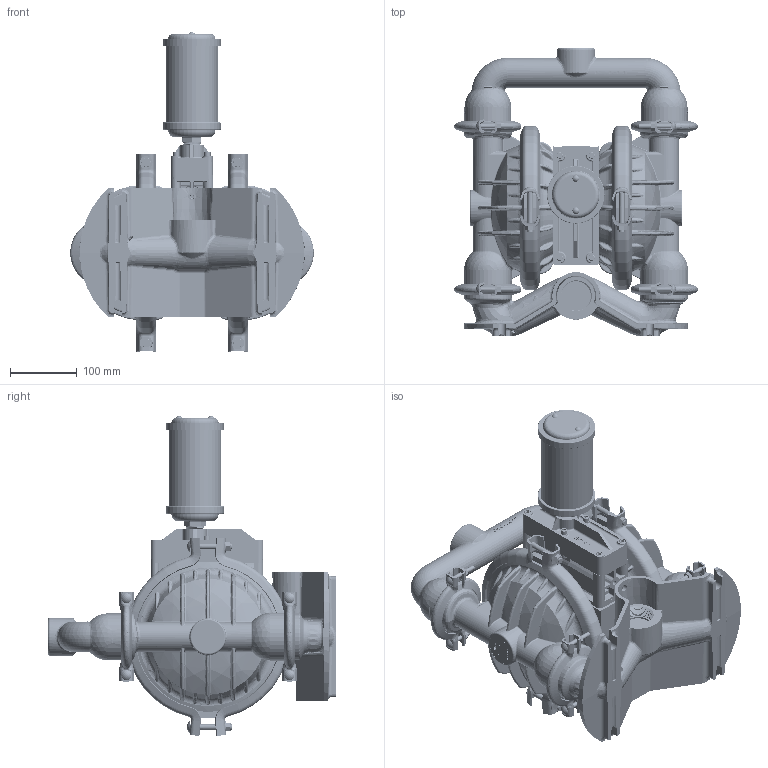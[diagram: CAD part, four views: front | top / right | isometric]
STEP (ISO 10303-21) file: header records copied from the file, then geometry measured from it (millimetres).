
FILE_DESCRIPTION (( 'STEP AP203' ), '1' );
FILE_NAME ('p4_al_clamp_top.STEP', '2022-07-04T19:33:03', ( '' ), ( '' ), 'SwSTEP 2.0', 'SolidWorks 2019', '' );
FILE_SCHEMA (( 'CONFIG_CONTROL_DESIGN' ));
Length unit declared in the file: inch
Products named in the file (1): p4_al_clamp_top
Bounding box: 364.92 x 431.93 x 479.28 mm (x, y, z)
Volume: 11460302.5 mm3; surface area: 955022.8 mm2
Topology: 1 solids, 1 shells, 8293 faces, 21648 edges, 13559 vertices
Faces by surface type: plane 4557, bspline 1761, cylinder 946, cone 530, torus 327, sphere 172
Entity records: 528712 total; most frequent: CARTESIAN_POINT 344365, ORIENTED_EDGE 43200, DIRECTION 31055, EDGE_CURVE 21600, VERTEX_POINT 13541, AXIS2_PLACEMENT_3D 10385, VECTOR 10285, LINE 10285
